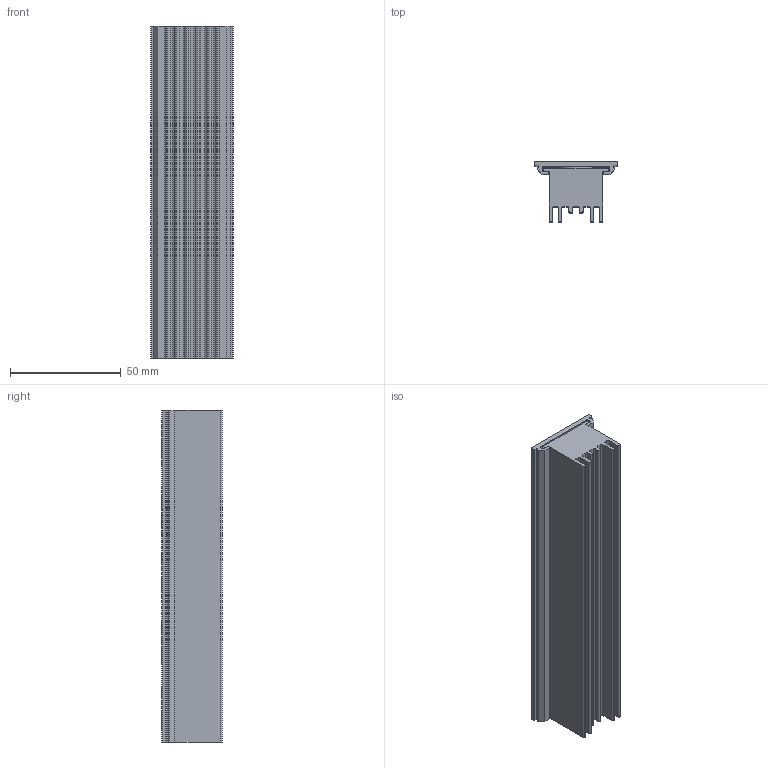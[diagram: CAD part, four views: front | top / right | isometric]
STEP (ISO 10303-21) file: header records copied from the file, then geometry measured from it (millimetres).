
FILE_DESCRIPTION (( 'STEP AP214' ), '1' );
FILE_NAME ('Dot 5 -CLICK.STEP', '2017-10-20T10:43:47', ( 'Ofitecnic3' ), ( 'Microsoft' ), 'SwSTEP 2.0', 'SolidWorks 2016', '' );
FILE_SCHEMA (( 'AUTOMOTIVE_DESIGN' ));
Length unit declared in the file: millimetre
Products named in the file (4): Dot 5 -CLICK; Disipador BIM (DOT)_150 M3; Perfil Tapa  BIM(SYSTEM CLICK)_LX5; Led BIM (DOT)_5
Assembly tree (3 placements, depth 2):
  Dot 5 -CLICK
    Disipador BIM (DOT)_150 M3
    Perfil Tapa  BIM(SYSTEM CLICK)_LX5
    Led BIM (DOT)_5
Bounding box: 37.22 x 27.3 x 150 mm (x, y, z)
Volume: 86667.3 mm3; surface area: 40513.3 mm2
Topology: 7 solids, 7 shells, 125 faces, 333 edges, 222 vertices
Faces by surface type: plane 60, cylinder 55, cone 10
Entity records: 4147 total; most frequent: DIRECTION 725, CARTESIAN_POINT 686, ORIENTED_EDGE 666, EDGE_CURVE 333, AXIS2_PLACEMENT_3D 261, VERTEX_POINT 222, VECTOR 203, LINE 203
